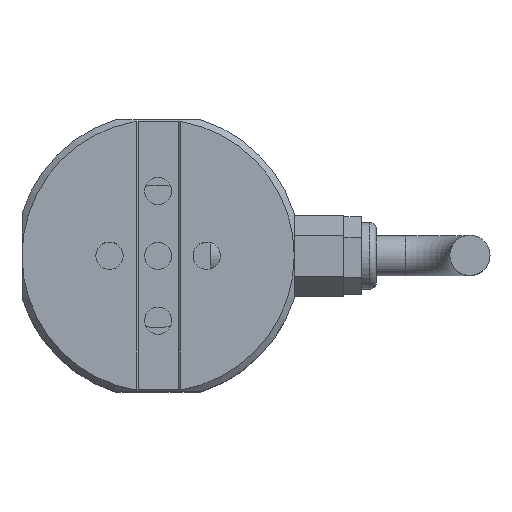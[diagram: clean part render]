
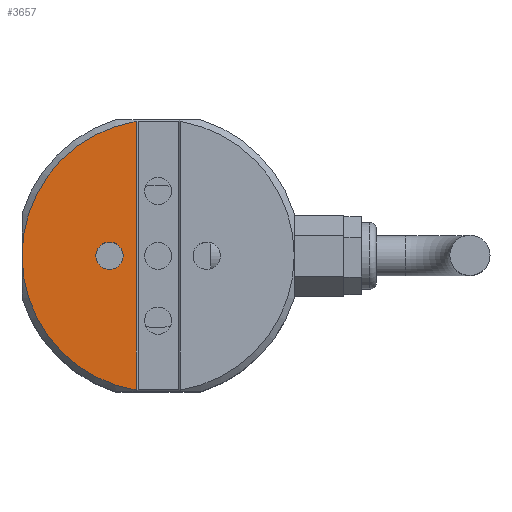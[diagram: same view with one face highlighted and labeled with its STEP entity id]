
A CAD part, top view. The second image highlights one B-rep face of the part: STEP entity #3657.
In plain terms, the highlighted planar face has unit normal (0, 0, 1).
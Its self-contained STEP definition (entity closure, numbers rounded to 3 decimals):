
#1 = FACE_OUTER_BOUND ( 'NONE', #4885, .T. ) ;
#6 = DIRECTION ( 'NONE',  ( -1., 0., 0. ) ) ;
#27 = EDGE_CURVE ( 'NONE', #1238, #1654, #1813, .T. ) ;
#138 = EDGE_CURVE ( 'NONE', #5941, #3645, #5424, .T. ) ;
#761 = AXIS2_PLACEMENT_3D ( 'NONE', #4418, #4826, #2111 ) ;
#958 = ORIENTED_EDGE ( 'NONE', *, *, #27, .T. ) ;
#1120 = EDGE_LOOP ( 'NONE', ( #4318 ) ) ;
#1130 = B_SPLINE_CURVE_WITH_KNOTS ( 'NONE', 3,
 ( #5802, #4956, #3125, #4430 ),
 .UNSPECIFIED., .F., .F.,
 ( 4, 4 ),
 ( 0., 1. ),
 .UNSPECIFIED. ) ;
#1162 = CIRCLE ( 'NONE', #5913, 21. ) ;
#1229 = DIRECTION ( 'NONE',  ( 1., 0., 0. ) ) ;
#1238 = VERTEX_POINT ( 'NONE', #2958 ) ;
#1283 = ORIENTED_EDGE ( 'NONE', *, *, #5589, .T. ) ;
#1329 = EDGE_CURVE ( 'NONE', #3645, #2201, #5547, .T. ) ;
#1334 = CARTESIAN_POINT ( 'NONE',  ( -3.401, -41.723, 0. ) ) ;
#1429 = DIRECTION ( 'NONE',  ( 0., 0., 1. ) ) ;
#1557 = ORIENTED_EDGE ( 'NONE', *, *, #1329, .T. ) ;
#1654 = VERTEX_POINT ( 'NONE', #2830 ) ;
#1708 = DIRECTION ( 'NONE',  ( 0., 0., 1. ) ) ;
#1813 = CIRCLE ( 'NONE', #3159, 21. ) ;
#1847 = CARTESIAN_POINT ( 'NONE',  ( -3.4, -43., 0. ) ) ;
#1883 = FACE_BOUND ( 'NONE', #1120, .T. ) ;
#1962 = AXIS2_PLACEMENT_3D ( 'NONE', #3711, #1429, #6 ) ;
#1989 = CARTESIAN_POINT ( 'NONE',  ( -3.4, -0.278, 0. ) ) ;
#2066 = CARTESIAN_POINT ( 'NONE',  ( -9.6, -21., 0. ) ) ;
#2111 = DIRECTION ( 'NONE',  ( 1., 0., 0. ) ) ;
#2154 = VERTEX_POINT ( 'NONE', #2066 ) ;
#2201 = VERTEX_POINT ( 'NONE', #1989 ) ;
#2347 = CARTESIAN_POINT ( 'NONE',  ( -3.401, -41.723, 0. ) ) ;
#2784 = CARTESIAN_POINT ( 'NONE',  ( -3.4, -41.722, 0. ) ) ;
#2830 = CARTESIAN_POINT ( 'NONE',  ( -21., -21., 0. ) ) ;
#2958 = CARTESIAN_POINT ( 'NONE',  ( -3.401, -0.277, 0. ) ) ;
#3005 = ORIENTED_EDGE ( 'NONE', *, *, #138, .T. ) ;
#3125 = CARTESIAN_POINT ( 'NONE',  ( -3.401, -0.278, 0. ) ) ;
#3149 = DIRECTION ( 'NONE',  ( 0., 0., 1. ) ) ;
#3159 = AXIS2_PLACEMENT_3D ( 'NONE', #5841, #3149, #1229 ) ;
#3248 = EDGE_CURVE ( 'NONE', #2154, #2154, #4779, .T. ) ;
#3645 = VERTEX_POINT ( 'NONE', #4186 ) ;
#3655 = ORIENTED_EDGE ( 'NONE', *, *, #4515, .T. ) ;
#3657 = ADVANCED_FACE ( 'NONE', ( #1, #1883 ), #3729, .F. ) ;
#3695 = DIRECTION ( 'NONE',  ( 0., 1., 0. ) ) ;
#3711 = CARTESIAN_POINT ( 'NONE',  ( -7.5, -21., 0. ) ) ;
#3729 = PLANE ( 'NONE',  #761 ) ;
#4186 = CARTESIAN_POINT ( 'NONE',  ( -3.4, -41.722, 0. ) ) ;
#4318 = ORIENTED_EDGE ( 'NONE', *, *, #3248, .F. ) ;
#4418 = CARTESIAN_POINT ( 'NONE',  ( 0., -43., 0. ) ) ;
#4430 = CARTESIAN_POINT ( 'NONE',  ( -3.401, -0.277, 0. ) ) ;
#4504 = CARTESIAN_POINT ( 'NONE',  ( 0., -21., 0. ) ) ;
#4515 = EDGE_CURVE ( 'NONE', #2201, #1238, #1130, .T. ) ;
#4779 = CIRCLE ( 'NONE', #1962, 2.1 ) ;
#4826 = DIRECTION ( 'NONE',  ( 0., 0., -1. ) ) ;
#4885 = EDGE_LOOP ( 'NONE', ( #1283, #3005, #1557, #3655, #958 ) ) ;
#4956 = CARTESIAN_POINT ( 'NONE',  ( -3.4, -0.278, 0. ) ) ;
#5424 = B_SPLINE_CURVE_WITH_KNOTS ( 'NONE', 3,
 ( #1334, #5949, #2784, #6003 ),
 .UNSPECIFIED., .F., .F.,
 ( 4, 4 ),
 ( 0., 1. ),
 .UNSPECIFIED. ) ;
#5547 = LINE ( 'NONE', #1847, #6027 ) ;
#5589 = EDGE_CURVE ( 'NONE', #1654, #5941, #1162, .T. ) ;
#5802 = CARTESIAN_POINT ( 'NONE',  ( -3.4, -0.278, 0. ) ) ;
#5841 = CARTESIAN_POINT ( 'NONE',  ( 0., -21., 0. ) ) ;
#5854 = DIRECTION ( 'NONE',  ( 1., 0., 0. ) ) ;
#5913 = AXIS2_PLACEMENT_3D ( 'NONE', #4504, #1708, #5854 ) ;
#5941 = VERTEX_POINT ( 'NONE', #2347 ) ;
#5949 = CARTESIAN_POINT ( 'NONE',  ( -3.401, -41.722, 0. ) ) ;
#6003 = CARTESIAN_POINT ( 'NONE',  ( -3.4, -41.722, 0. ) ) ;
#6027 = VECTOR ( 'NONE', #3695, 1000. ) ;
